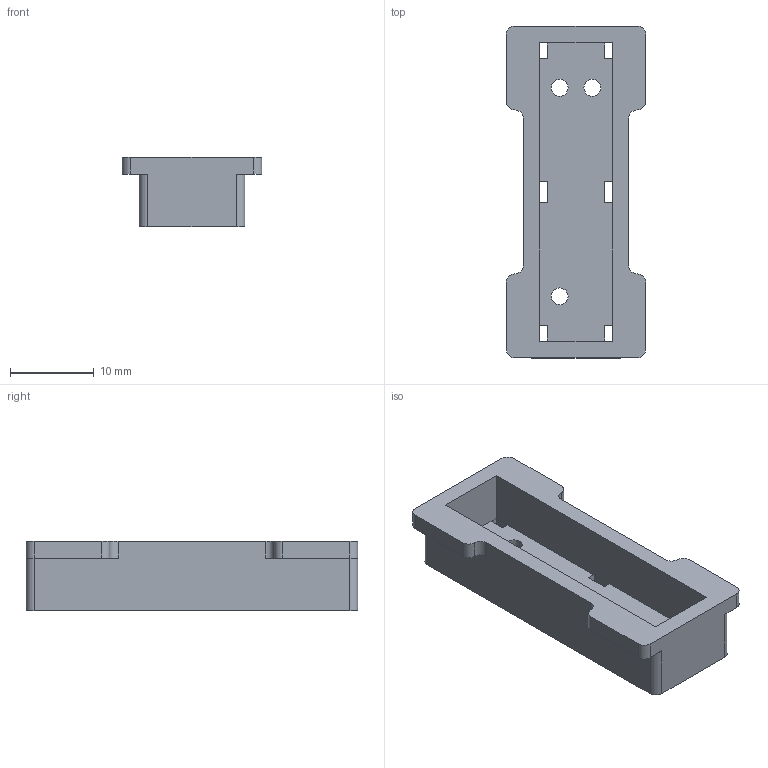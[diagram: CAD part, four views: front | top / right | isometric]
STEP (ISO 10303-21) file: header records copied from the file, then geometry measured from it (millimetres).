
FILE_DESCRIPTION(/* description */ ('STEP AP242','CAx-IF Rec.Pracs.---Representation and Presentation of Product Manufacturing Information (PMI)---4.0---2014-10-13','CAx-IF Rec.Pracs.---3D Tessellated Geometry---0.4---2014-09-14','2;1'),/* implementation_level */ '2;1');
FILE_NAME(/* name */ '687e6c17f344454910d4825c',/* time_stamp */ '2025-07-21T16:34:31Z',/* author */ (''),/* organization */ (''),/* preprocessor_version */ 'ST-DEVELOPER v20',/* originating_system */ 'ONSHAPE BY PTC INC, 1.201',/* authorisation */ ' ');
FILE_SCHEMA (('AP242_MANAGED_MODEL_BASED_3D_ENGINEERING_MIM_LF { 1 0 10303 442 1 1 4 }'));
Length unit declared in the file: metre
Products named in the file (1): Slider Switch Case
Bounding box: 16.6 x 39.55 x 8.25 mm (x, y, z)
Volume: 2307.7 mm3; surface area: 2653 mm2
Topology: 1 solids, 1 shells, 68 faces, 201 edges, 130 vertices
Faces by surface type: plane 49, cylinder 19
Full cylindrical faces by diameter (mm): 2 x3
Entity records: 2290 total; most frequent: CARTESIAN_POINT 397, ORIENTED_EDGE 396, DIRECTION 374, EDGE_CURVE 198, LINE 160, VECTOR 160, VERTEX_POINT 130, AXIS2_PLACEMENT_3D 107
